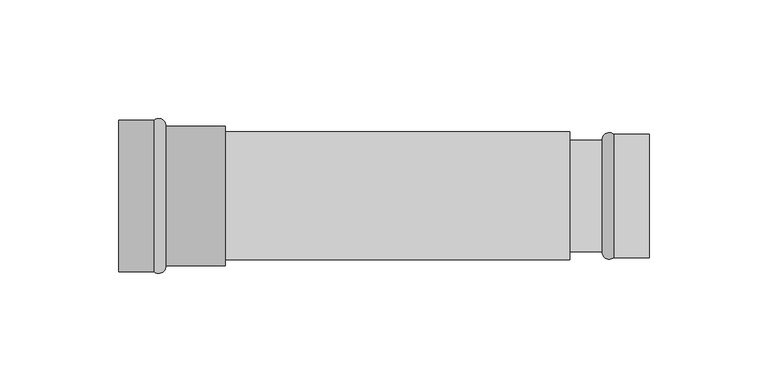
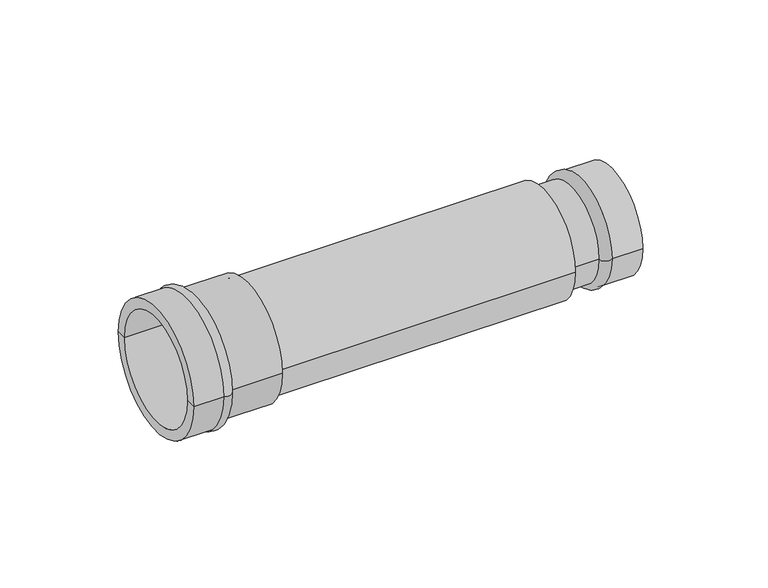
"""IFC4 building model written with IfcOpenShell, lengths in millimetres: pipe fitting geometry, VALTEC_VTi.903.I_Соединитель прямой нержавеющая сталь : VTi.903.I."""

from ifc_helpers import new_model, si_unit, point, frame, origin, origin_2d, place, context, project, spatial, polyline, circle_curve, ellipse_curve, trimmed, segment, composite_curve, outline, extrude, source, transform, mapped, element, save
from ifc_brep_helpers import plane_surface, cylinder_surface, revolved_surface, advanced_brep


def pipe_fitting_8dc7dd46(model_context):
    return source(origin(), model_context, "Body", "SolidModel", [
        advanced_brep(
        [(0.0, -27.0, 0.0), (0.0, 27.0, 0.0), (0.0, 32.0, 0.0), (0.0, -32.0, 0.0), (45.0, -27.0, 0.0), (45.0, 27.0, 0.0), (45.0, -29.5, 0.0), (45.0, 29.5, 0.0), (20.0, -29.5, 0.0), (20.0, 29.5, 0.0), (15.0, -32.0, 0.0), (15.0, 32.0, 0.0)],
        [
            (0, 1, circle_curve(frame((0.0, 0.0, 0.0), z_axis=(1.0, 0.0, 0.0), x_axis=(0.0, 1.0, 0.0)), 27.0)),
            (1, 2),
            (2, 3, circle_curve(frame((0.0, 0.0, 0.0), z_axis=(-1.0, 0.0, 0.0), x_axis=(0.0, 1.0, 0.0)), 32.0)),
            (3, 0),
            (1, 0, circle_curve(frame((0.0, 0.0, 0.0), z_axis=(1.0, 0.0, 0.0), x_axis=(0.0, 1.0, 0.0)), 27.0)),
            (3, 2, circle_curve(frame((0.0, 0.0, 0.0), z_axis=(-1.0, 0.0, 0.0), x_axis=(0.0, 1.0, 0.0)), 32.0)),
            (4, 5, circle_curve(frame((45.0, 0.0, 0.0), z_axis=(1.0, 0.0, 0.0), x_axis=(0.0, 1.0, 0.0)), 27.0)),
            (5, 1),
            (0, 4),
            (5, 4, circle_curve(frame((45.0, 0.0, 0.0), z_axis=(1.0, 0.0, 0.0), x_axis=(0.0, 1.0, 0.0)), 27.0)),
            (6, 7, circle_curve(frame((45.0, 0.0, 0.0), z_axis=(1.0, 0.0, 0.0), x_axis=(0.0, 1.0, 0.0)), 29.5)),
            (7, 5),
            (4, 6),
            (7, 6, circle_curve(frame((45.0, 0.0, 0.0), z_axis=(1.0, 0.0, 0.0), x_axis=(0.0, 1.0, 0.0)), 29.5)),
            (8, 9, circle_curve(frame((20.0, 0.0, 0.0), z_axis=(1.0, 0.0, 0.0), x_axis=(0.0, 1.0, 0.0)), 29.5)),
            (9, 7),
            (6, 8),
            (9, 8, circle_curve(frame((20.0, 0.0, 0.0), z_axis=(1.0, 0.0, 0.0), x_axis=(0.0, 1.0, 0.0)), 29.5)),
            (10, 11, circle_curve(frame((15.0, 0.0, 0.0), z_axis=(1.0, 0.0, 0.0), x_axis=(0.0, 1.0, 0.0)), 32.0)),
            (11, 9, circle_curve(frame((16.9311725, 29.612345, 0.0), z_axis=(0.0, 0.0, -1.0), x_axis=(1.0, 0.0, 0.0)), 3.0708832)),
            (8, 10, circle_curve(frame((16.9311725, -29.612345, 0.0), z_axis=(0.0, 0.0, -1.0), x_axis=(1.0, 0.0, 0.0)), 3.0708832)),
            (11, 10, circle_curve(frame((15.0, 0.0, 0.0), z_axis=(1.0, 0.0, 0.0), x_axis=(0.0, 1.0, 0.0)), 32.0)),
            (2, 11),
            (10, 3),
        ],
        [
            plane_surface(frame((0.0, 0.0, 0.0), z_axis=(-1.0, 0.0, 0.0), x_axis=(0.0, 1.0, 0.0))),
            revolved_surface(polyline([(0.0, 27.0, 0.0), (45.0, 27.0, 0.0)]), (29.5993608, 0.0, 0.0), (-1.0, 0.0, 0.0)),
            plane_surface(frame((45.0, 0.0, 0.0), z_axis=(1.0, 0.0, 0.0), x_axis=(0.0, 1.0, 0.0))),
            cylinder_surface(frame((29.5993608, 0.0, 0.0), z_axis=(-1.0, 0.0, 0.0), x_axis=(0.0, 1.0, 0.0)), 29.5),
            revolved_surface(trimmed(ellipse_curve(frame((16.9311725, 29.612345, 0.0), z_axis=(0.0, 0.0, 1.0), x_axis=(1.0, 0.0, 0.0)), 3.0708832, 3.0708832), [point((20.0, 29.5, 0.0))], [point((15.0, 32.0, 0.0))], True, "CARTESIAN"), (29.5993608, 0.0, 0.0), (-1.0, 0.0, 0.0)),
            cylinder_surface(frame((29.5993608, 0.0, 0.0), z_axis=(-1.0, 0.0, 0.0), x_axis=(0.0, 1.0, 0.0)), 32.0),
        ],
        [
            (0, [[1, 2, 3, 4]]),
            (0, [[5, -4, 6, -2]]),
            (1, [[7, 8, -1, 9]]),
            (1, [[10, -9, -5, -8]]),
            (2, [[11, 12, -7, 13]]),
            (2, [[14, -13, -10, -12]]),
            (3, [[15, 16, -11, 17]]),
            (3, [[18, -17, -14, -16]]),
            (4, [[19, 20, -15, 21]]),
            (4, [[22, -21, -18, -20]]),
            (5, [[-3, 23, -19, 24]]),
            (5, [[-6, -24, -22, -23]]),
        ],
    ),
        advanced_brep(
        [(224.0, 21.0, 0.0), (224.0, -21.0, 0.0), (224.0, -26.0, 0.0), (224.0, 26.0, 0.0), (179.0, 21.0, 0.0), (179.0, -21.0, 0.0), (179.0, 23.5, 0.0), (179.0, -23.5, 0.0), (204.0, 23.5, 0.0), (204.0, -23.5, 0.0), (209.0, 26.0, 0.0), (209.0, -26.0, 0.0)],
        [
            (0, 1, circle_curve(frame((224.0, 0.0, 0.0), z_axis=(-1.0, 0.0, 0.0), x_axis=(0.0, -1.0, 0.0)), 21.0)),
            (1, 2),
            (2, 3, circle_curve(frame((224.0, 0.0, 0.0), z_axis=(1.0, 0.0, 0.0), x_axis=(0.0, -1.0, 0.0)), 26.0)),
            (3, 0),
            (1, 0, circle_curve(frame((224.0, 0.0, 0.0), z_axis=(-1.0, 0.0, 0.0), x_axis=(0.0, -1.0, 0.0)), 21.0)),
            (3, 2, circle_curve(frame((224.0, 0.0, 0.0), z_axis=(1.0, 0.0, 0.0), x_axis=(0.0, -1.0, 0.0)), 26.0)),
            (4, 5, circle_curve(frame((179.0, 0.0, 0.0), z_axis=(-1.0, 0.0, 0.0), x_axis=(0.0, -1.0, 0.0)), 21.0)),
            (5, 1),
            (0, 4),
            (5, 4, circle_curve(frame((179.0, 0.0, 0.0), z_axis=(-1.0, 0.0, 0.0), x_axis=(0.0, -1.0, 0.0)), 21.0)),
            (6, 7, circle_curve(frame((179.0, 0.0, 0.0), z_axis=(-1.0, 0.0, 0.0), x_axis=(0.0, -1.0, 0.0)), 23.5)),
            (7, 5),
            (4, 6),
            (7, 6, circle_curve(frame((179.0, 0.0, 0.0), z_axis=(-1.0, 0.0, 0.0), x_axis=(0.0, -1.0, 0.0)), 23.5)),
            (8, 9, circle_curve(frame((204.0, 0.0, 0.0), z_axis=(-1.0, 0.0, 0.0), x_axis=(0.0, -1.0, 0.0)), 23.5)),
            (9, 7),
            (6, 8),
            (9, 8, circle_curve(frame((204.0, 0.0, 0.0), z_axis=(-1.0, 0.0, 0.0), x_axis=(0.0, -1.0, 0.0)), 23.5)),
            (10, 11, circle_curve(frame((209.0, 0.0, 0.0), z_axis=(-1.0, 0.0, 0.0), x_axis=(0.0, -1.0, 0.0)), 26.0)),
            (11, 9, circle_curve(frame((207.0688275, -23.612345, 0.0), z_axis=(0.0, 0.0, -1.0), x_axis=(-1.0, 0.0, 0.0)), 3.0708832)),
            (8, 10, circle_curve(frame((207.0688275, 23.612345, 0.0), z_axis=(0.0, 0.0, -1.0), x_axis=(-1.0, 0.0, 0.0)), 3.0708832)),
            (11, 10, circle_curve(frame((209.0, 0.0, 0.0), z_axis=(-1.0, 0.0, 0.0), x_axis=(0.0, -1.0, 0.0)), 26.0)),
            (2, 11),
            (10, 3),
        ],
        [
            plane_surface(frame((224.0, 0.0, 0.0), z_axis=(1.0, 0.0, 0.0), x_axis=(0.0, -1.0, 0.0))),
            revolved_surface(polyline([(224.0, -21.0, 0.0), (179.0, -21.0, 0.0)]), (194.4006392, 0.0, 0.0), (1.0, 0.0, 0.0)),
            plane_surface(frame((179.0, 0.0, 0.0), z_axis=(-1.0, 0.0, 0.0), x_axis=(0.0, -1.0, 0.0))),
            cylinder_surface(frame((194.4006392, 0.0, 0.0), z_axis=(1.0, 0.0, 0.0), x_axis=(0.0, -1.0, 0.0)), 23.5),
            revolved_surface(trimmed(ellipse_curve(frame((207.0688275, -23.612345, 0.0), z_axis=(0.0, 0.0, 1.0), x_axis=(-1.0, 0.0, 0.0)), 3.0708832, 3.0708832), [point((204.0, -23.5, 0.0))], [point((209.0, -26.0, 0.0))], True, "CARTESIAN"), (194.4006392, 0.0, 0.0), (1.0, 0.0, 0.0)),
            cylinder_surface(frame((194.4006392, 0.0, 0.0), z_axis=(1.0, 0.0, 0.0), x_axis=(0.0, -1.0, 0.0)), 26.0),
        ],
        [
            (0, [[1, 2, 3, 4]]),
            (0, [[5, -4, 6, -2]]),
            (1, [[7, 8, -1, 9]]),
            (1, [[10, -9, -5, -8]]),
            (2, [[11, 12, -7, 13]]),
            (2, [[14, -13, -10, -12]]),
            (3, [[15, 16, -11, 17]]),
            (3, [[18, -17, -14, -16]]),
            (4, [[19, 20, -15, 21]]),
            (4, [[22, -21, -18, -20]]),
            (5, [[-3, 23, -19, 24]]),
            (5, [[-6, -24, -22, -23]]),
        ],
    ),
        extrude(outline(composite_curve([segment(trimmed(circle_curve(origin_2d(), 27.0), [point((-27.0, 0.0))], [point((27.0, 0.0))], False, "CARTESIAN"), True, "CONTINUOUS"), segment(trimmed(circle_curve(origin_2d(), 27.0), [point((27.0, 0.0))], [point((-27.0, 0.0))], False, "CARTESIAN"), True, "CONTINUOUS")], self_intersect=False)), frame((33.6, 0.0, 0.0), z_axis=(1.0, 0.0, 0.0), x_axis=(0.0, 1.0, 0.0)), (0.0, 0.0, 1.0), 156.8),
    ])


if __name__ == "__main__":
    model = new_model("IFC4")
    model_context = context("Model", 3, world=origin())
    ifc_project = project(units=[si_unit("LENGTHUNIT", "METRE", prefix="MILLI")], contexts=[model_context])
    site = spatial("IfcSite", under=ifc_project)
    building = spatial("IfcBuilding", under=site)
    placement = place(None, origin())
    pipe_fitting_shape = pipe_fitting_8dc7dd46(model_context)
    element("IfcPipeFitting", 1, ObjectType="VALTEC_VTi.903.I_Соединитель прямой нержавеющая сталь : VTi.903.I", at=placement, inside=building, context=model_context, shape_type="MappedRepresentation", body=[
        mapped(pipe_fitting_shape, transform((0.0, 0.0, 0.0), x_axis=(1.0, 0.0, 0.0), y_axis=(0.0, 1.0, 0.0), z_axis=(0.0, 0.0, 1.0))),
    ])
    save(model, "model.ifc")
